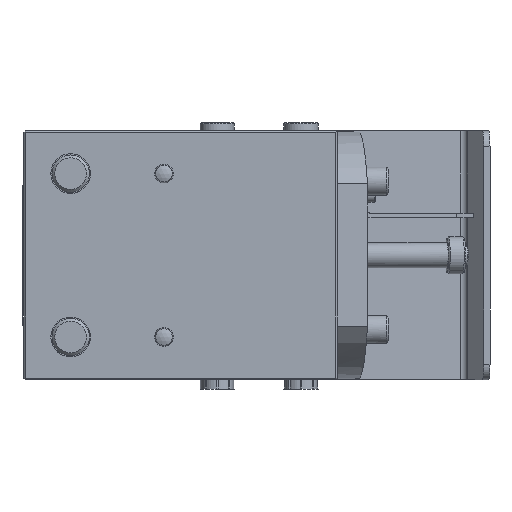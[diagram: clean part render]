
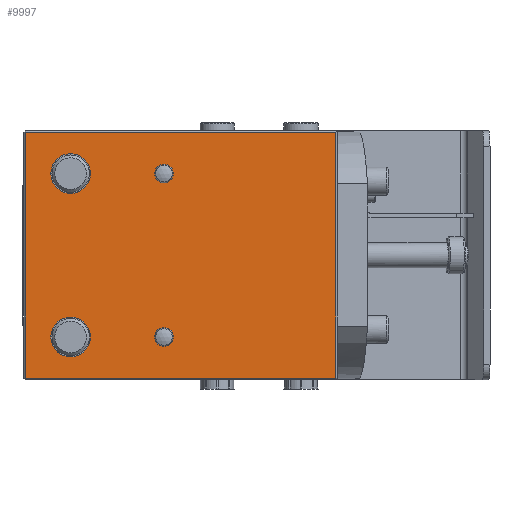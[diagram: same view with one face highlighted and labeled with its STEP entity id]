
A CAD part, front view. The second image highlights one B-rep face of the part: STEP entity #9997.
In plain terms, the highlighted planar face has unit normal (0, -1, 0) by its records, which use the part's own axes.
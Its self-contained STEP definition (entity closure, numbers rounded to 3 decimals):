
#563=LINE($,#16652,#1092);
#565=LINE($,#16655,#1094);
#567=LINE($,#16659,#1096);
#568=LINE($,#16661,#1097);
#1092=VECTOR($,#13219,158.);
#1094=VECTOR($,#13223,199.5);
#1096=VECTOR($,#13229,199.5);
#1097=VECTOR($,#13232,158.);
#1540=PLANE($,#11000);
#1913=FACE_BOUND($,#3553,.T.);
#1914=FACE_BOUND($,#3554,.T.);
#1915=FACE_BOUND($,#3555,.T.);
#1916=FACE_BOUND($,#3556,.T.);
#1917=FACE_BOUND($,#3557,.T.);
#3553=EDGE_LOOP($,(#8010));
#3554=EDGE_LOOP($,(#8011));
#3555=EDGE_LOOP($,(#8012));
#3556=EDGE_LOOP($,(#8013));
#3557=EDGE_LOOP($,(#8014,#8015,#8016,#8017));
#3990=CIRCLE($,#10362,6.);
#3999=CIRCLE($,#10380,6.);
#4243=CIRCLE($,#10944,12.75);
#4245=CIRCLE($,#10950,12.75);
#4451=VERTEX_POINT($,#14387);
#4460=VERTEX_POINT($,#14414);
#4968=VERTEX_POINT($,#16380);
#4975=VERTEX_POINT($,#16461);
#4987=VERTEX_POINT($,#16587);
#4995=VERTEX_POINT($,#16631);
#4996=VERTEX_POINT($,#16638);
#4998=VERTEX_POINT($,#16644);
#5327=EDGE_CURVE($,#4451,#4451,#3990,.T.);
#5336=EDGE_CURVE($,#4460,#4460,#3999,.T.);
#6013=EDGE_CURVE($,#4968,#4968,#4243,.T.);
#6020=EDGE_CURVE($,#4975,#4975,#4245,.T.);
#6074=EDGE_CURVE($,#4996,#4998,#563,.T.);
#6076=EDGE_CURVE($,#4998,#4995,#565,.T.);
#6078=EDGE_CURVE($,#4987,#4996,#567,.T.);
#6079=EDGE_CURVE($,#4995,#4987,#568,.T.);
#8010=ORIENTED_EDGE($,*,*,#5327,.T.);
#8011=ORIENTED_EDGE($,*,*,#5336,.T.);
#8012=ORIENTED_EDGE($,*,*,#6013,.T.);
#8013=ORIENTED_EDGE($,*,*,#6020,.T.);
#8014=ORIENTED_EDGE($,*,*,#6074,.F.);
#8015=ORIENTED_EDGE($,*,*,#6078,.F.);
#8016=ORIENTED_EDGE($,*,*,#6079,.F.);
#8017=ORIENTED_EDGE($,*,*,#6076,.F.);
#9997=ADVANCED_FACE($,(#1913,#1914,#1915,#1916,#1917),#1540,.T.);
#10362=AXIS2_PLACEMENT_3D($,#14388,#11610,#11611);
#10380=AXIS2_PLACEMENT_3D($,#14415,#11646,#11647);
#10944=AXIS2_PLACEMENT_3D($,#16381,#13104,#13105);
#10950=AXIS2_PLACEMENT_3D($,#16462,#13116,#13117);
#11000=AXIS2_PLACEMENT_3D($,#16682,#13261,#13262);
#11610=DIRECTION('center_axis',(0.,1.,0.));
#11611=DIRECTION('ref_axis',(-1.,0.,0.));
#11646=DIRECTION('center_axis',(0.,1.,0.));
#11647=DIRECTION('ref_axis',(-1.,0.,0.));
#13104=DIRECTION('center_axis',(0.,1.,0.));
#13105=DIRECTION('ref_axis',(-1.,0.,0.));
#13116=DIRECTION('center_axis',(0.,1.,0.));
#13117=DIRECTION('ref_axis',(-1.,0.,0.));
#13219=DIRECTION($,(0.,0.,1.));
#13223=DIRECTION($,(1.,0.,0.));
#13229=DIRECTION($,(-1.,0.,0.));
#13232=DIRECTION($,(0.,0.,-1.));
#13261=DIRECTION('center_axis',(0.,-1.,0.));
#13262=DIRECTION('ref_axis',(0.,0.,-1.));
#14387=CARTESIAN_POINT('',(96.,-56.95,-52.5));
#14388=CARTESIAN_POINT('Origin',(90.,-56.95,-52.5));
#14414=CARTESIAN_POINT('',(96.,-56.95,52.5));
#14415=CARTESIAN_POINT('Origin',(90.,-56.95,52.5));
#16380=CARTESIAN_POINT('',(42.75,-56.95,52.5));
#16381=CARTESIAN_POINT('Origin',(30.,-56.95,52.5));
#16461=CARTESIAN_POINT('',(42.75,-56.95,-52.5));
#16462=CARTESIAN_POINT('Origin',(30.,-56.95,-52.5));
#16587=CARTESIAN_POINT('',(200.5,-56.95,-79.));
#16631=CARTESIAN_POINT('',(200.5,-56.95,79.));
#16638=CARTESIAN_POINT('',(1.,-56.95,-79.));
#16644=CARTESIAN_POINT('',(1.,-56.95,79.));
#16652=CARTESIAN_POINT($,(1.,-56.95,0.));
#16655=CARTESIAN_POINT($,(150.743,-56.95,79.));
#16659=CARTESIAN_POINT($,(150.743,-56.95,-79.));
#16661=CARTESIAN_POINT($,(200.5,-56.95,0.));
#16682=CARTESIAN_POINT('Origin',(201.5,-56.95,0.));
